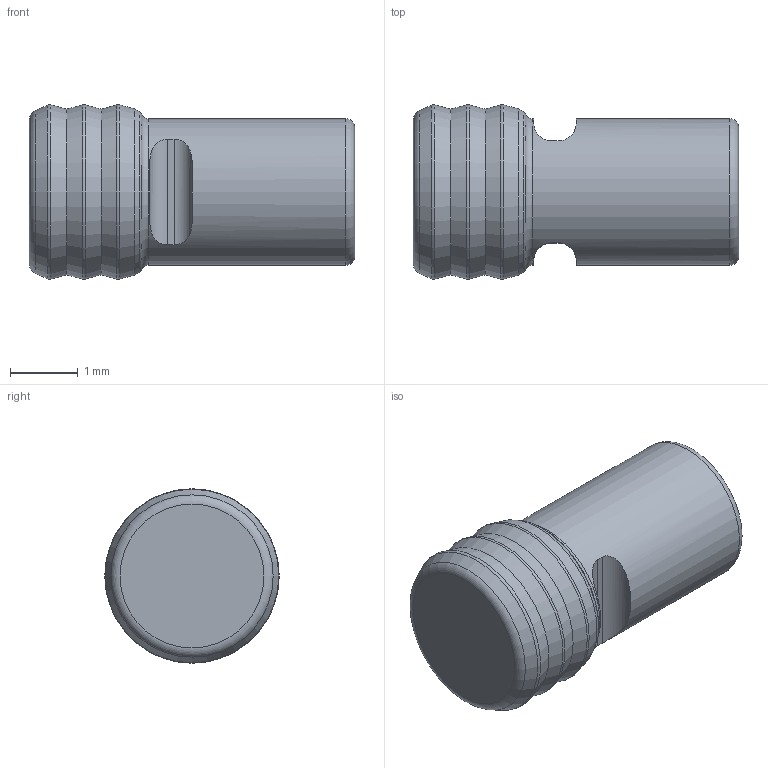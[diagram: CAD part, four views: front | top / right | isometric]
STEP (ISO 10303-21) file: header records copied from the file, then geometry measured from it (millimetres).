
FILE_DESCRIPTION(/* description */ ('LEE CHEK, 2.5mm, PRESS-IN'),/* implementation_level */ '2;1');
FILE_NAME(/* name */ '\\ABSOLUTE\SmWork\Vernon\CCPI25XXXXXS.stp',/* time_stamp */ '2021-03-23T14:54:09-04:00',/* author */ ('VernonJ'),/* organization */ (''),/* preprocessor_version */ 'ST-DEVELOPER v18',/* originating_system */ 'Autodesk Inventor 2020',/* authorisation */ '');
FILE_SCHEMA (('AUTOMOTIVE_DESIGN { 1 0 10303 214 3 1 1 }'));
Length unit declared in the file: millimetre
Products named in the file (1): CCPI25XXXXXS
Bounding box: 4.79 x 2.57 x 2.57 mm (x, y, z)
Volume: 19.2 mm3; surface area: 43.1 mm2
Topology: 1 solids, 1 shells, 27 faces, 84 edges, 60 vertices
Faces by surface type: plane 8, torus 7, cone 7, cylinder 5
Full cylindrical faces by diameter (mm): 2.16 x1
Entity records: 1134 total; most frequent: CARTESIAN_POINT 292, DIRECTION 187, ORIENTED_EDGE 168, EDGE_CURVE 84, AXIS2_PLACEMENT_3D 83, VERTEX_POINT 60, CIRCLE 55, EDGE_LOOP 28
